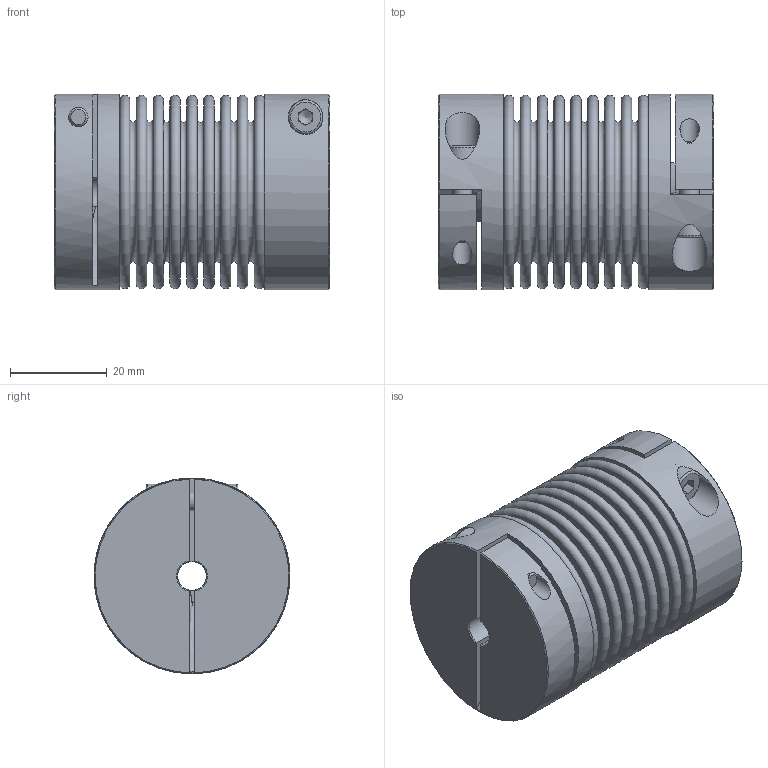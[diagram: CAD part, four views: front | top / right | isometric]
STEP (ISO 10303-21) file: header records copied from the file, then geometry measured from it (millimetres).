
FILE_DESCRIPTION(/* description */ ('STEP AP203'),/* implementation_level */ '2;1');
FILE_NAME(/* name */ 'KB2-100-57-6-6',/* time_stamp */ '2022-09-13T13:43:39+02:00',/* author */ ('License CC BY-ND 4.0'),/* organization */ ('CADENAS'),/* preprocessor_version */ 'ST-DEVELOPER v18.102',/* originating_system */ 'PARTsolutions',/* authorisation */ ' ');
FILE_SCHEMA (('CONFIG_CONTROL_DESIGN'));
Length unit declared in the file: millimetre
Products named in the file (1): KB2-100-57-6-6
Bounding box: 57 x 40.5 x 40.5 mm (x, y, z)
Volume: 34369.3 mm3; surface area: 36385.2 mm2
Topology: 1 solids, 1 shells, 152 faces, 306 edges, 200 vertices
Faces by surface type: plane 84, torus 36, cylinder 22, cone 10
Full cylindrical faces by diameter (mm): 4 x4, 4.2 x2, 6 x2, 7 x2, 7.2 x2, 30.1 x2, 40.5 x2
Entity records: 3744 total; most frequent: CARTESIAN_POINT 713, DIRECTION 660, ORIENTED_EDGE 476, AXIS2_PLACEMENT_3D 289, FACE_BOUND 260, EDGE_LOOP 258, EDGE_CURVE 238, VERTEX_POINT 190
